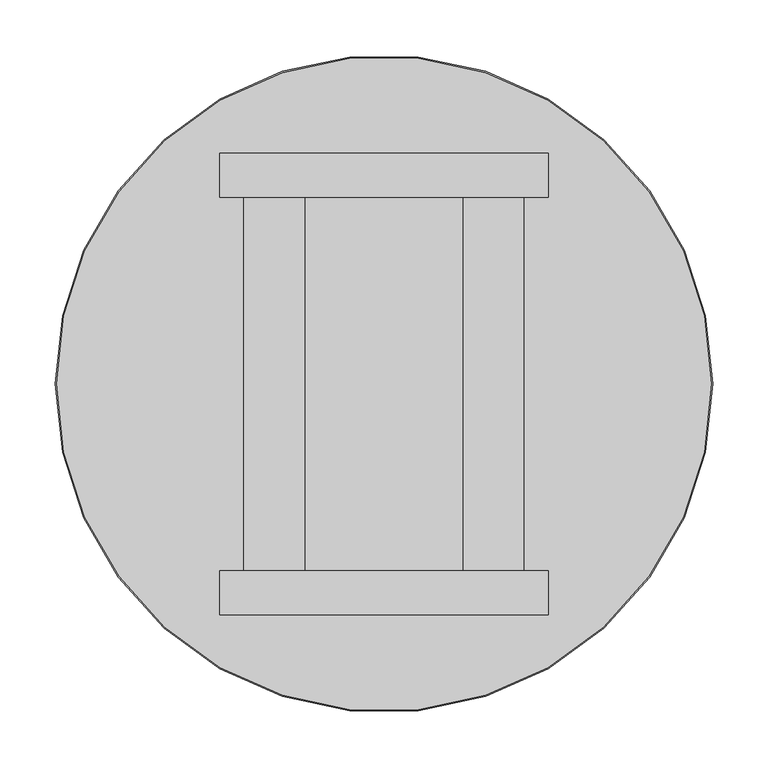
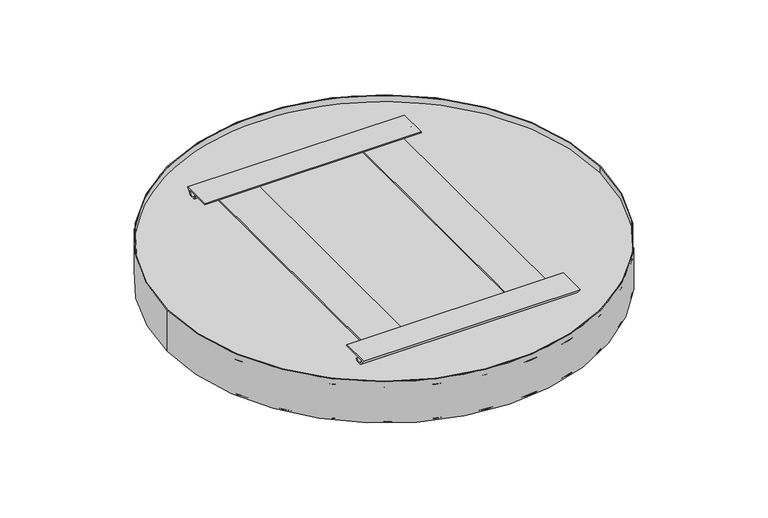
"""IFC4 building model written with IfcOpenShell, lengths in millimetres: proxy geometry, durlum_TOMEO-R-active : durlum_TOMEO-R-ACTIVE 600."""

from ifc_helpers import new_model, si_unit, point, frame, origin, origin_with_axes, origin_2d, place, context, project, spatial, polyline, circle_curve, trimmed, segment, composite_curve, outline, extrude, source, transform, mapped, element, save


def generic_models_f79c98f9(model_context):
    return source(origin(), model_context, "Body", "SweptSolid", [
        extrude(outline(polyline([(56.0, 126.3333333), (56.0, 71.3333333), (54.0, 71.3333333), (54.0, 97.8333333), (3.0, 97.8333333), (3.0, 71.3333333), (1.0, 71.3333333), (1.0, 126.3333333), (3.0, 126.3333333), (3.0, 99.8333333), (54.0, 99.8333333), (54.0, 126.3333333), (56.0, 126.3333333)])), frame((0.0, -197.6666667, 0.0), z_axis=(0.0, 1.0, 0.0), x_axis=(0.0, 0.0, 1.0)), (0.0, 0.0, 1.0), 395.3333333),
        extrude(outline(polyline([(208.2973023, 60.0), (198.3726306, 48.0), (197.1040606, 48.0), (190.6509118, 53.6332485), (191.6072389, 54.7895514), (197.6666667, 49.5), (205.1101704, 58.5), (168.2973023, 58.5), (168.2973023, 60.0), (208.2973023, 60.0)])), frame((-148.25, 0.0, 0.0), z_axis=(1.0, 0.0, 0.0), x_axis=(0.0, 1.0, 0.0)), (0.0, 0.0, 1.0), 296.5),
        extrude(outline(polyline([(-208.2973023, 60.0), (-168.2973023, 60.0), (-168.2973023, 58.5), (-205.1101704, 58.5), (-197.6666667, 49.5), (-191.6072389, 54.7895514), (-190.6509118, 53.6332485), (-197.1040606, 48.0), (-198.3726306, 48.0), (-208.2973023, 60.0)])), frame((-148.25, 0.0, 0.0), z_axis=(1.0, 0.0, 0.0), x_axis=(0.0, 1.0, 0.0)), (0.0, 0.0, 1.0), 296.5),
        extrude(outline(polyline([(56.0, -71.3333333), (56.0, -126.3333333), (54.0, -126.3333333), (54.0, -99.8333333), (3.0, -99.8333333), (3.0, -126.3333333), (1.0, -126.3333333), (1.0, -71.3333333), (3.0, -71.3333333), (3.0, -97.8333333), (54.0, -97.8333333), (54.0, -71.3333333), (56.0, -71.3333333)])), frame((0.0, -197.6666667, 0.0), z_axis=(0.0, 1.0, 0.0), x_axis=(0.0, 0.0, 1.0)), (0.0, 0.0, 1.0), 395.3333333),
        extrude(outline(composite_curve([segment(trimmed(circle_curve(origin_2d(), 295.5), [point((-295.5, 0.0))], [point((295.5, 0.0))], False, "CARTESIAN"), True, "CONTINUOUS"), segment(trimmed(circle_curve(origin_2d(), 295.5), [point((295.5, 0.0))], [point((-295.5, 0.0))], False, "CARTESIAN"), True, "CONTINUOUS")], self_intersect=False)), frame((0.0, 0.0, 1.0), z_axis=(0.0, 0.0, 1.0), x_axis=(1.0, 0.0, 0.0)), (0.0, 0.0, 1.0), 50.2547795),
        extrude(outline(composite_curve([segment(trimmed(circle_curve(origin_2d(), 295.5), [point((-295.5, 0.0))], [point((295.5, 0.0))], False, "CARTESIAN"), True, "CONTINUOUS"), segment(trimmed(circle_curve(origin_2d(), 295.5), [point((295.5, 0.0))], [point((-295.5, 0.0))], False, "CARTESIAN"), True, "CONTINUOUS")], self_intersect=False)), frame((0.0, 0.0, 1.0), z_axis=(0.0, 0.0, 1.0), x_axis=(1.0, 0.0, 0.0)), (0.0, 0.0, 1.0), 1.0),
        extrude(outline(composite_curve([segment(trimmed(circle_curve(origin_2d(), 295.5), [point((-295.5, 0.0))], [point((295.5, 0.0))], False, "CARTESIAN"), True, "CONTINUOUS"), segment(trimmed(circle_curve(origin_2d(), 295.5), [point((295.5, 0.0))], [point((-295.5, 0.0))], False, "CARTESIAN"), True, "CONTINUOUS")], self_intersect=False)), origin_with_axes(), (0.0, 0.0, 1.0), 1.0),
        extrude(outline(composite_curve([segment(trimmed(circle_curve(origin_2d(), 296.5), [point((-296.5, 0.0))], [point((296.5, 0.0))], False, "CARTESIAN"), True, "CONTINUOUS"), segment(trimmed(circle_curve(origin_2d(), 296.5), [point((296.5, 0.0))], [point((-296.5, 0.0))], False, "CARTESIAN"), True, "CONTINUOUS")], self_intersect=False), holes=[composite_curve([segment(trimmed(circle_curve(origin_2d(), 295.5), [point((-295.5, 0.0))], [point((295.5, 0.0))], True, "CARTESIAN"), True, "CONTINUOUS"), segment(trimmed(circle_curve(origin_2d(), 295.5), [point((295.5, 0.0))], [point((-295.5, 0.0))], True, "CARTESIAN"), True, "CONTINUOUS")], self_intersect=False)]), origin_with_axes(), (0.0, 0.0, 1.0), 60.0),
    ])


if __name__ == "__main__":
    model = new_model("IFC4")
    model_context = context("Model", 3, world=origin())
    ifc_project = project(units=[si_unit("LENGTHUNIT", "METRE", prefix="MILLI")], contexts=[model_context])
    site = spatial("IfcSite", under=ifc_project)
    building = spatial("IfcBuilding", under=site)
    placement = place(None, origin())
    generic_models_shape = generic_models_f79c98f9(model_context)
    element("IfcBuildingElementProxy", 1, Name="durlum_TOMEO-R-active : durlum_TOMEO-R-ACTIVE 600", ObjectType="durlum_TOMEO-R-active : durlum_TOMEO-R-ACTIVE 600", at=placement, inside=building, context=model_context, shape_type="MappedRepresentation", body=[
        mapped(generic_models_shape, transform((0.0, 0.0, 0.0), x_axis=(1.0, 0.0, 0.0), y_axis=(0.0, 1.0, 0.0), z_axis=(0.0, 0.0, 1.0))),
    ])
    save(model, "model.ifc")
